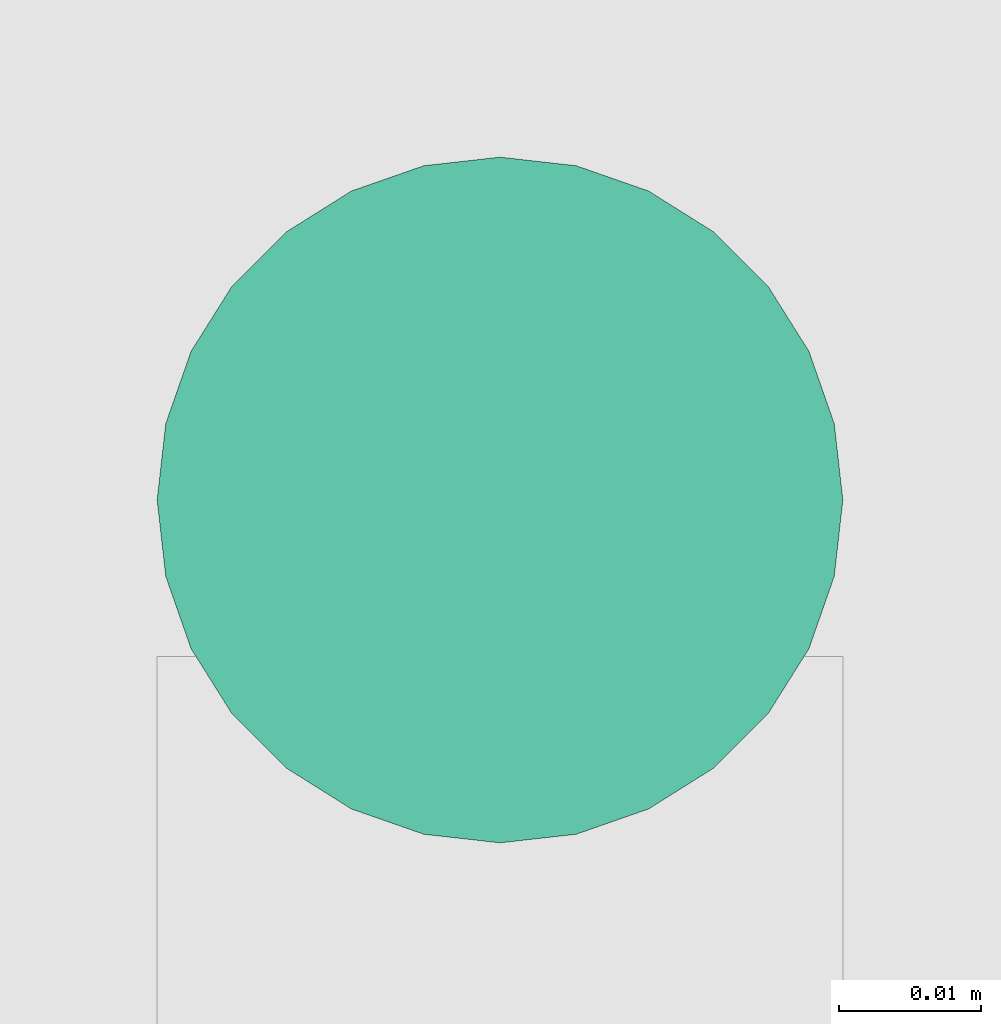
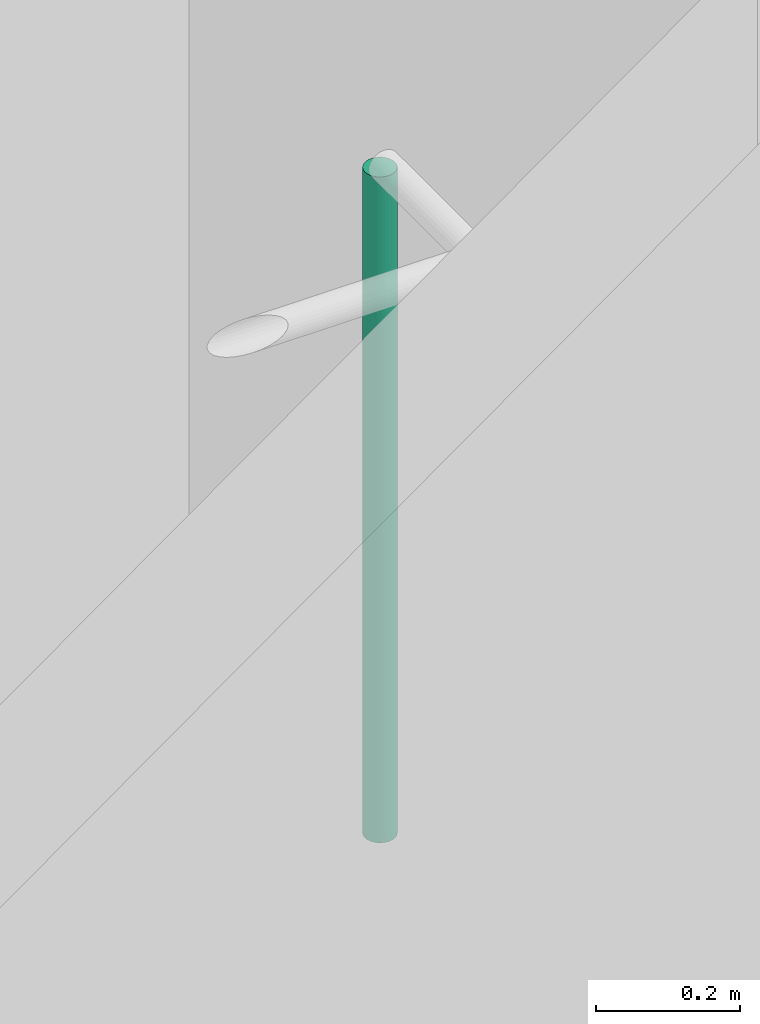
# One storey, part 31 of 71: 1 pipe segment.
"""IFC4 building model written with IfcOpenShell, lengths in centimetres."""

from ifc_helpers import new_model, entity, si_unit, converted_unit, derived_unit, direction, frame, origin, place, context, subcontext, project, spatial, arc, indexed_curve, outline, extrude, type_object, element, save


model = new_model("IFC4")

# Units and contexts
model_context = context("Model", 3, precision=0.001, world=origin(), true_north=direction((6.123233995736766e-17, 1.0)))
body_context = subcontext(model_context, "Body", "Model", "MODEL_VIEW")
ifc_project = project(units=[si_unit("LENGTHUNIT", "METRE", prefix="CENTI"), si_unit("AREAUNIT", "SQUARE_METRE"), si_unit("VOLUMEUNIT", "CUBIC_METRE"), derived_unit("THERMALTRANSMITTANCEUNIT", [(si_unit("MASSUNIT", "GRAM", prefix="KILO"), 1), (si_unit("THERMODYNAMICTEMPERATUREUNIT", "KELVIN"), -1), (si_unit("TIMEUNIT", "SECOND"), -3)]), converted_unit("PLANEANGLEUNIT", "DEGREE", entity("IfcPlaneAngleMeasure", 0.017453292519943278), si_unit("PLANEANGLEUNIT", "RADIAN"), dimensions=[0, 0, 0, 0, 0, 0, 0]), derived_unit("MASSDENSITYUNIT", [(si_unit("MASSUNIT", "GRAM", prefix="KILO"), 1), (si_unit("LENGTHUNIT", "METRE"), -3)]), derived_unit("VAPORPERMEABILITYUNIT", [(si_unit("LENGTHUNIT", "METRE"), -1), (si_unit("TIMEUNIT", "SECOND"), 1)]), derived_unit("USERDEFINED", [(si_unit("MASSUNIT", "GRAM", prefix="KILO"), 1), (si_unit("TIMEUNIT", "SECOND"), -3), (si_unit("LENGTHUNIT", "METRE"), 3), (si_unit("ELECTRICCURRENTUNIT", "AMPERE"), -2)]), derived_unit("SPECIFICHEATCAPACITYUNIT", [(si_unit("THERMODYNAMICTEMPERATUREUNIT", "KELVIN"), -1), (si_unit("LENGTHUNIT", "METRE"), 2), (si_unit("TIMEUNIT", "SECOND"), -2)]), derived_unit("THERMALCONDUCTANCEUNIT", [(si_unit("MASSUNIT", "GRAM", prefix="KILO"), 1), (si_unit("THERMODYNAMICTEMPERATUREUNIT", "KELVIN"), -1), (si_unit("TIMEUNIT", "SECOND"), -3), (si_unit("LENGTHUNIT", "METRE"), 1)]), si_unit("PRESSUREUNIT", "PASCAL"), derived_unit("MODULUSOFELASTICITYUNIT", [(si_unit("MASSUNIT", "GRAM", prefix="KILO"), 1), (si_unit("LENGTHUNIT", "METRE"), -1), (si_unit("TIMEUNIT", "SECOND"), -2)]), derived_unit("THERMALEXPANSIONCOEFFICIENTUNIT", [(si_unit("THERMODYNAMICTEMPERATUREUNIT", "KELVIN"), -1)])], contexts=[model_context])

# Site, building, storey
site_placement = place(None, origin())
site = spatial("IfcSite", under=ifc_project, at=site_placement, Name="Default", CompositionType="ELEMENT")
building_placement = place(site_placement, origin())
building = spatial("IfcBuilding", under=site, at=building_placement, Name="IDS Escape Game Building", CompositionType="ELEMENT")
storey_placement = place(building_placement, frame((0.0, 0.0, 1200.0)))
storey = spatial("IfcBuildingStorey", under=building, at=storey_placement, Name="03_Third Floor", CompositionType="ELEMENT", Elevation=1200.0)

# Pipe segment
pipe_segment_type = type_object("IfcPipeSegmentType", Name="Pipe Types:Piping Aluminum", PredefinedType="NOTDEFINED")
pipe_segment_placement = place(storey_placement, origin())
element("IfcPipeSegment", 1, at=pipe_segment_placement, inside=storey, type_object=pipe_segment_type, Name="Pipe Types:Piping Aluminum", ObjectType="Pipe Types:Piping Aluminum", PredefinedType="NOTDEFINED", context=body_context, shape_type="SweptSolid", body=[
    extrude(outline(indexed_curve([(2.412999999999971, 0.0), (1.7062486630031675, 1.7062486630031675), (0.0, 2.412999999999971), (-1.7062486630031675, 1.7062486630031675), (-2.412999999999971, 0.0), (-1.7062486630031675, -1.7062486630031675), (0.0, -2.412999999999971), (1.7062486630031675, -1.7062486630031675)], segments=[arc(1, 2, 3), arc(3, 4, 5), arc(5, 6, 7), arc(7, 8, 1)], self_intersect=False)), frame((1588.1500000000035, 2600.9000000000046, 128.0), z_axis=(0.0, 0.0, 1.0), x_axis=(-1.0, 0.0, 0.0)), (0.0, 0.0, 1.0), 112.90000000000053),
])

save(model, "model.ifc")
